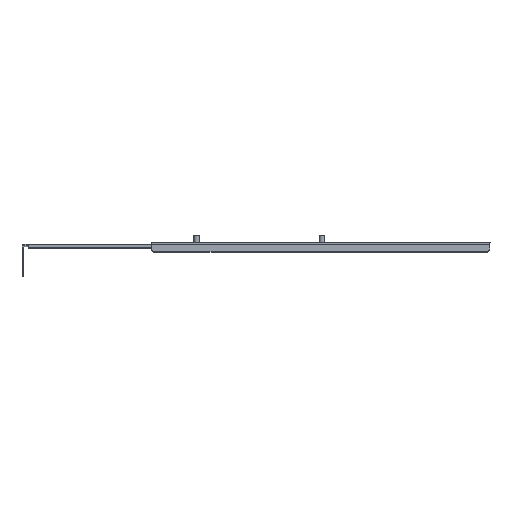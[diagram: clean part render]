
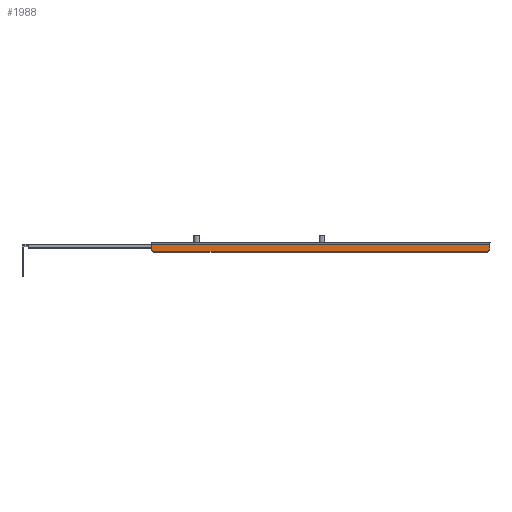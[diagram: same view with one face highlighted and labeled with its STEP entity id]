
A CAD part, top view. The second image highlights one B-rep face of the part: STEP entity #1988.
In plain terms, the highlighted planar face has unit normal (0, 0, 1).
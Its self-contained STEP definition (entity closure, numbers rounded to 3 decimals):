
#190 = EDGE_CURVE ( 'NONE', #5730, #2185, #986, .T. ) ;
#336 = LINE ( 'NONE', #1902, #4781 ) ;
#341 = DIRECTION ( 'NONE',  ( -1., 0., 0. ) ) ;
#367 = LINE ( 'NONE', #1654, #3669 ) ;
#680 = LINE ( 'NONE', #1410, #2710 ) ;
#962 = DIRECTION ( 'NONE',  ( 0.707, -0.707, 0. ) ) ;
#986 = LINE ( 'NONE', #5065, #1006 ) ;
#1006 = VECTOR ( 'NONE', #341, 1000. ) ;
#1095 = VECTOR ( 'NONE', #7716, 1000. ) ;
#1193 = CARTESIAN_POINT ( 'NONE',  ( -2., -5., 222.25 ) ) ;
#1410 = CARTESIAN_POINT ( 'NONE',  ( 0., -3., 222.25 ) ) ;
#1488 = LINE ( 'NONE', #8184, #1820 ) ;
#1654 = CARTESIAN_POINT ( 'NONE',  ( -301.5, -5., 222.25 ) ) ;
#1753 = VECTOR ( 'NONE', #5369, 1000. ) ;
#1820 = VECTOR ( 'NONE', #7496, 1000. ) ;
#1902 = CARTESIAN_POINT ( 'NONE',  ( -303.5, 0., 222.25 ) ) ;
#1988 = ADVANCED_FACE ( 'NONE', ( #8328 ), #4397, .F. ) ;
#2185 = VERTEX_POINT ( 'NONE', #8002 ) ;
#2215 = ORIENTED_EDGE ( 'NONE', *, *, #8381, .T. ) ;
#2361 = DIRECTION ( 'NONE',  ( -1., 0., 0. ) ) ;
#2415 = CARTESIAN_POINT ( 'NONE',  ( 0., 0., 222.25 ) ) ;
#2710 = VECTOR ( 'NONE', #5397, 1000. ) ;
#2780 = EDGE_CURVE ( 'NONE', #7685, #4609, #8332, .T. ) ;
#3055 = CARTESIAN_POINT ( 'NONE',  ( 0., 3., 222.25 ) ) ;
#3511 = EDGE_LOOP ( 'NONE', ( #7706, #3672, #8467, #5105, #6593, #3871, #2215, #4822 ) ) ;
#3669 = VECTOR ( 'NONE', #962, 1000. ) ;
#3672 = ORIENTED_EDGE ( 'NONE', *, *, #4838, .T. ) ;
#3871 = ORIENTED_EDGE ( 'NONE', *, *, #2780, .T. ) ;
#3887 = CARTESIAN_POINT ( 'NONE',  ( -303.5, 1.5, 222.25 ) ) ;
#4355 = DIRECTION ( 'NONE',  ( 0., 0., -1. ) ) ;
#4397 = PLANE ( 'NONE',  #7937 ) ;
#4609 = VERTEX_POINT ( 'NONE', #5267 ) ;
#4781 = VECTOR ( 'NONE', #5147, 1000. ) ;
#4822 = ORIENTED_EDGE ( 'NONE', *, *, #5229, .F. ) ;
#4838 = EDGE_CURVE ( 'NONE', #5418, #2185, #367, .T. ) ;
#5065 = CARTESIAN_POINT ( 'NONE',  ( -303.5, -5., 222.25 ) ) ;
#5102 = CARTESIAN_POINT ( 'NONE',  ( 0., 0.5, 222.25 ) ) ;
#5105 = ORIENTED_EDGE ( 'NONE', *, *, #5385, .T. ) ;
#5114 = CARTESIAN_POINT ( 'NONE',  ( 0., 0.5, 222.25 ) ) ;
#5147 = DIRECTION ( 'NONE',  ( 0., 1., 0. ) ) ;
#5229 = EDGE_CURVE ( 'NONE', #5789, #7108, #336, .T. ) ;
#5267 = CARTESIAN_POINT ( 'NONE',  ( 0., 3., 222.25 ) ) ;
#5369 = DIRECTION ( 'NONE',  ( 0., 1., 0. ) ) ;
#5385 = EDGE_CURVE ( 'NONE', #5730, #7995, #680, .T. ) ;
#5397 = DIRECTION ( 'NONE',  ( 0.707, 0.707, 0. ) ) ;
#5418 = VERTEX_POINT ( 'NONE', #6653 ) ;
#5625 = CARTESIAN_POINT ( 'NONE',  ( 0., -3., 222.25 ) ) ;
#5663 = DIRECTION ( 'NONE',  ( 0., -1., 0. ) ) ;
#5730 = VERTEX_POINT ( 'NONE', #1193 ) ;
#5739 = LINE ( 'NONE', #3055, #7747 ) ;
#5789 = VERTEX_POINT ( 'NONE', #6558 ) ;
#6536 = EDGE_CURVE ( 'NONE', #5418, #5789, #6622, .T. ) ;
#6558 = CARTESIAN_POINT ( 'NONE',  ( -303.5, 0.5, 222.25 ) ) ;
#6593 = ORIENTED_EDGE ( 'NONE', *, *, #8247, .F. ) ;
#6622 = LINE ( 'NONE', #3887, #1753 ) ;
#6653 = CARTESIAN_POINT ( 'NONE',  ( -303.5, -3., 222.25 ) ) ;
#7108 = VERTEX_POINT ( 'NONE', #8093 ) ;
#7496 = DIRECTION ( 'NONE',  ( 0., -1., 0. ) ) ;
#7685 = VERTEX_POINT ( 'NONE', #5114 ) ;
#7706 = ORIENTED_EDGE ( 'NONE', *, *, #6536, .F. ) ;
#7716 = DIRECTION ( 'NONE',  ( 0., 1., 0. ) ) ;
#7747 = VECTOR ( 'NONE', #2361, 1000. ) ;
#7937 = AXIS2_PLACEMENT_3D ( 'NONE', #2415, #4355, #5663 ) ;
#7995 = VERTEX_POINT ( 'NONE', #5625 ) ;
#8002 = CARTESIAN_POINT ( 'NONE',  ( -301.5, -5., 222.25 ) ) ;
#8093 = CARTESIAN_POINT ( 'NONE',  ( -303.5, 3., 222.25 ) ) ;
#8184 = CARTESIAN_POINT ( 'NONE',  ( 0., -5., 222.25 ) ) ;
#8247 = EDGE_CURVE ( 'NONE', #7685, #7995, #1488, .T. ) ;
#8328 = FACE_OUTER_BOUND ( 'NONE', #3511, .T. ) ;
#8332 = LINE ( 'NONE', #5102, #1095 ) ;
#8381 = EDGE_CURVE ( 'NONE', #4609, #7108, #5739, .T. ) ;
#8467 = ORIENTED_EDGE ( 'NONE', *, *, #190, .F. ) ;
